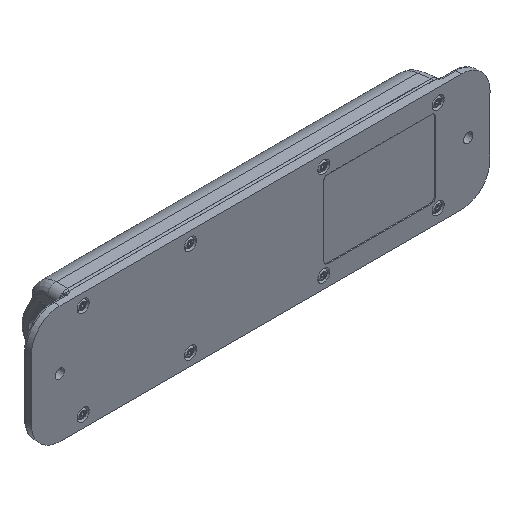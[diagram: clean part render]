
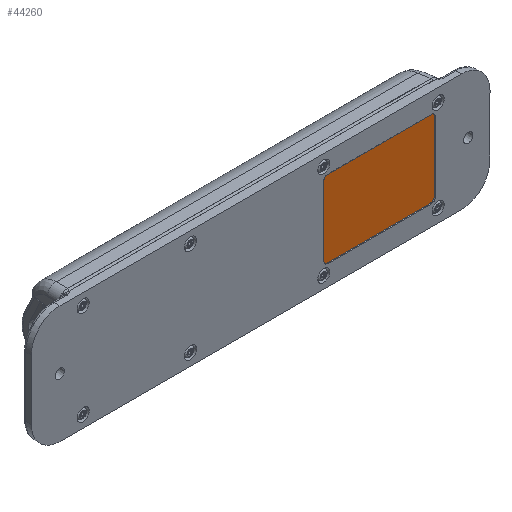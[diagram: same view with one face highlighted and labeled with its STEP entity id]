
A CAD part, isometric view. The second image highlights one B-rep face of the part: STEP entity #44260.
In plain terms, the highlighted planar face has unit normal (0, -1, 0).
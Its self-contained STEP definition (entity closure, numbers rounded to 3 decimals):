
#7 = AXIS2_PLACEMENT_3D ( 'NONE', #49263, #73110, #19539 ) ;
#1106 = DIRECTION ( 'NONE',  ( 0., 0., -1. ) ) ;
#1681 = VERTEX_POINT ( 'NONE', #64528 ) ;
#1923 = CARTESIAN_POINT ( 'NONE',  ( -121.988, 0.7, 24. ) ) ;
#2682 = ORIENTED_EDGE ( 'NONE', *, *, #44253, .T. ) ;
#3656 = CARTESIAN_POINT ( 'NONE',  ( -121.988, 0.7, 24. ) ) ;
#4284 = CARTESIAN_POINT ( 'NONE',  ( -44.012, 0.7, -24. ) ) ;
#4447 = ORIENTED_EDGE ( 'NONE', *, *, #76185, .T. ) ;
#6103 = VERTEX_POINT ( 'NONE', #11045 ) ;
#6612 = ORIENTED_EDGE ( 'NONE', *, *, #29848, .T. ) ;
#8325 = DIRECTION ( 'NONE',  ( 0., 0., -1. ) ) ;
#8448 = EDGE_CURVE ( 'NONE', #26847, #6103, #23269, .T. ) ;
#9581 = VERTEX_POINT ( 'NONE', #16060 ) ;
#11045 = CARTESIAN_POINT ( 'NONE',  ( -47., 0.7, -26.988 ) ) ;
#11877 = VECTOR ( 'NONE', #70942, 1000. ) ;
#13984 = VECTOR ( 'NONE', #26147, 1000. ) ;
#16060 = CARTESIAN_POINT ( 'NONE',  ( -44.012, 0.7, 24. ) ) ;
#16490 = CIRCLE ( 'NONE', #60262, 2.988 ) ;
#17821 = CIRCLE ( 'NONE', #61565, 2.988 ) ;
#18508 = DIRECTION ( 'NONE',  ( 0., -1., 0. ) ) ;
#18748 = DIRECTION ( 'NONE',  ( 0., 0., -1. ) ) ;
#19539 = DIRECTION ( 'NONE',  ( 0., 0., -1. ) ) ;
#21003 = ORIENTED_EDGE ( 'NONE', *, *, #64034, .T. ) ;
#21143 = LINE ( 'NONE', #44991, #72076 ) ;
#21682 = CARTESIAN_POINT ( 'NONE',  ( -119., 0.7, 26.988 ) ) ;
#23269 = LINE ( 'NONE', #47116, #11877 ) ;
#24924 = VERTEX_POINT ( 'NONE', #4284 ) ;
#25466 = AXIS2_PLACEMENT_3D ( 'NONE', #72109, #18508, #42389 ) ;
#26147 = DIRECTION ( 'NONE',  ( 0., 0., -1. ) ) ;
#26847 = VERTEX_POINT ( 'NONE', #70453 ) ;
#27102 = VERTEX_POINT ( 'NONE', #70750 ) ;
#28004 = AXIS2_PLACEMENT_3D ( 'NONE', #38283, #62109, #8325 ) ;
#29848 = EDGE_CURVE ( 'NONE', #46083, #1681, #55858, .T. ) ;
#30627 = EDGE_CURVE ( 'NONE', #1681, #26847, #59160, .T. ) ;
#31201 = CARTESIAN_POINT ( 'NONE',  ( -47., 0.7, -24. ) ) ;
#31452 = EDGE_CURVE ( 'NONE', #6103, #24924, #16490, .T. ) ;
#32124 = VERTEX_POINT ( 'NONE', #70340 ) ;
#33137 = ORIENTED_EDGE ( 'NONE', *, *, #31452, .T. ) ;
#33318 = ORIENTED_EDGE ( 'NONE', *, *, #30627, .T. ) ;
#33578 = EDGE_LOOP ( 'NONE', ( #2682, #6612, #33318, #74282, #33137, #21003, #4447, #57107 ) ) ;
#36774 = FACE_OUTER_BOUND ( 'NONE', #33578, .T. ) ;
#38283 = CARTESIAN_POINT ( 'NONE',  ( -47., 0.7, 24. ) ) ;
#42389 = DIRECTION ( 'NONE',  ( 0., 0., -1. ) ) ;
#44253 = EDGE_CURVE ( 'NONE', #32124, #46083, #17821, .T. ) ;
#44260 = ADVANCED_FACE ( 'NONE', ( #36774 ), #60607, .T. ) ;
#44991 = CARTESIAN_POINT ( 'NONE',  ( -44.012, 0.7, 24. ) ) ;
#45028 = EDGE_CURVE ( 'NONE', #27102, #32124, #75229, .T. ) ;
#45522 = DIRECTION ( 'NONE',  ( -1., 0., 0. ) ) ;
#46083 = VERTEX_POINT ( 'NONE', #3656 ) ;
#47116 = CARTESIAN_POINT ( 'NONE',  ( -119., 0.7, -26.988 ) ) ;
#48495 = CARTESIAN_POINT ( 'NONE',  ( -119., 0.7, 24. ) ) ;
#49263 = CARTESIAN_POINT ( 'NONE',  ( -119., 0.7, -24. ) ) ;
#55064 = DIRECTION ( 'NONE',  ( 0., -1., 0. ) ) ;
#55858 = LINE ( 'NONE', #1923, #13984 ) ;
#57107 = ORIENTED_EDGE ( 'NONE', *, *, #45028, .T. ) ;
#59160 = CIRCLE ( 'NONE', #25466, 2.988 ) ;
#60262 = AXIS2_PLACEMENT_3D ( 'NONE', #31201, #55064, #1106 ) ;
#60607 = PLANE ( 'NONE',  #7 ) ;
#61565 = AXIS2_PLACEMENT_3D ( 'NONE', #48495, #72342, #18748 ) ;
#61697 = CIRCLE ( 'NONE', #28004, 2.988 ) ;
#62109 = DIRECTION ( 'NONE',  ( 0., -1., 0. ) ) ;
#64034 = EDGE_CURVE ( 'NONE', #24924, #9581, #21143, .T. ) ;
#64528 = CARTESIAN_POINT ( 'NONE',  ( -121.988, 0.7, -24. ) ) ;
#68812 = DIRECTION ( 'NONE',  ( 0., 0., 1. ) ) ;
#70340 = CARTESIAN_POINT ( 'NONE',  ( -119., 0.7, 26.988 ) ) ;
#70453 = CARTESIAN_POINT ( 'NONE',  ( -119., 0.7, -26.988 ) ) ;
#70750 = CARTESIAN_POINT ( 'NONE',  ( -47., 0.7, 26.988 ) ) ;
#70942 = DIRECTION ( 'NONE',  ( 1., 0., 0. ) ) ;
#71620 = VECTOR ( 'NONE', #45522, 1000. ) ;
#72076 = VECTOR ( 'NONE', #68812, 1000. ) ;
#72109 = CARTESIAN_POINT ( 'NONE',  ( -119., 0.7, -24. ) ) ;
#72342 = DIRECTION ( 'NONE',  ( 0., -1., 0. ) ) ;
#73110 = DIRECTION ( 'NONE',  ( 0., -1., 0. ) ) ;
#74282 = ORIENTED_EDGE ( 'NONE', *, *, #8448, .T. ) ;
#75229 = LINE ( 'NONE', #21682, #71620 ) ;
#76185 = EDGE_CURVE ( 'NONE', #9581, #27102, #61697, .T. ) ;
